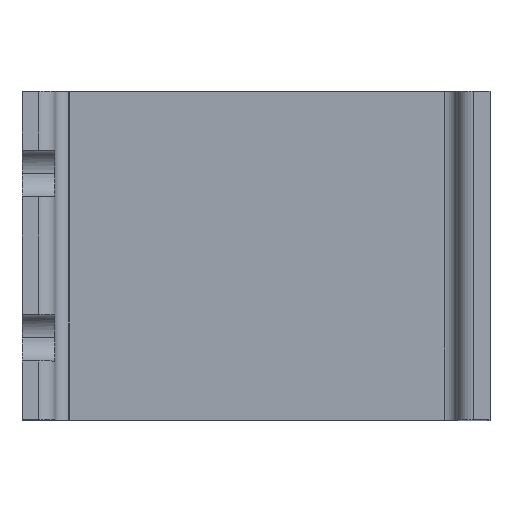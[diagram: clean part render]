
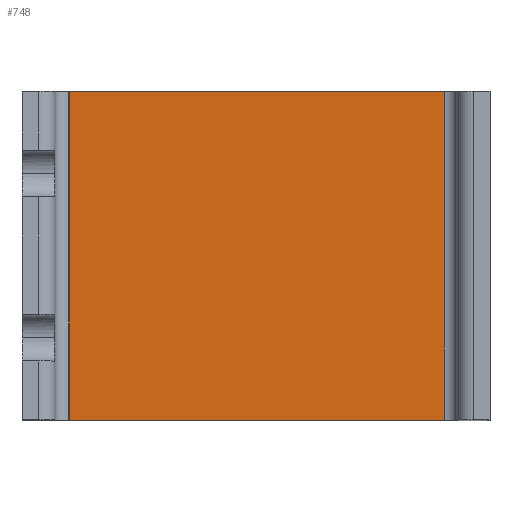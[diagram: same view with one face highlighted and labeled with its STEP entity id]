
A CAD part, top view. The second image highlights one B-rep face of the part: STEP entity #748.
In plain terms, the highlighted planar face has unit normal (-0.052, 0, 0.999).
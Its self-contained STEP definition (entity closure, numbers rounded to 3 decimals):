
#19 = VERTEX_POINT ( 'NONE', #129 ) ;
#49 = CARTESIAN_POINT ( 'NONE',  ( 291.331, 248.2, 32.465 ) ) ;
#72 = EDGE_CURVE ( 'NONE', #907, #2281, #1736, .T. ) ;
#129 = CARTESIAN_POINT ( 'NONE',  ( 222.831, 248.2, 28.875 ) ) ;
#233 = EDGE_CURVE ( 'NONE', #2281, #1954, #254, .T. ) ;
#254 = LINE ( 'NONE', #1974, #939 ) ;
#297 = DIRECTION ( 'NONE',  ( 0., -1., 0. ) ) ;
#490 = ORIENTED_EDGE ( 'NONE', *, *, #233, .T. ) ;
#534 = DIRECTION ( 'NONE',  ( 0.999, 0., 0.052 ) ) ;
#545 = CARTESIAN_POINT ( 'NONE',  ( 291.331, 308.2, 32.465 ) ) ;
#687 = DIRECTION ( 'NONE',  ( 0., 1., 0. ) ) ;
#748 = ADVANCED_FACE ( 'NONE', ( #945 ), #2257, .T. ) ;
#803 = VECTOR ( 'NONE', #687, 1000. ) ;
#848 = ORIENTED_EDGE ( 'NONE', *, *, #2206, .T. ) ;
#849 = ORIENTED_EDGE ( 'NONE', *, *, #72, .T. ) ;
#907 = VERTEX_POINT ( 'NONE', #49 ) ;
#939 = VECTOR ( 'NONE', #1285, 1000. ) ;
#945 = FACE_OUTER_BOUND ( 'NONE', #2002, .T. ) ;
#972 = AXIS2_PLACEMENT_3D ( 'NONE', #1375, #1220, #1571 ) ;
#1031 = ORIENTED_EDGE ( 'NONE', *, *, #1937, .T. ) ;
#1094 = VECTOR ( 'NONE', #534, 1000. ) ;
#1220 = DIRECTION ( 'NONE',  ( -0.052, 0., 0.999 ) ) ;
#1285 = DIRECTION ( 'NONE',  ( -0.999, 0., -0.052 ) ) ;
#1343 = CARTESIAN_POINT ( 'NONE',  ( 222.831, 308.2, 28.875 ) ) ;
#1375 = CARTESIAN_POINT ( 'NONE',  ( 222.831, 308.2, 28.875 ) ) ;
#1571 = DIRECTION ( 'NONE',  ( 0.999, 0., 0.052 ) ) ;
#1720 = CARTESIAN_POINT ( 'NONE',  ( 222.831, 308.2, 28.875 ) ) ;
#1736 = LINE ( 'NONE', #2108, #803 ) ;
#1835 = LINE ( 'NONE', #1960, #1094 ) ;
#1937 = EDGE_CURVE ( 'NONE', #1954, #19, #2001, .T. ) ;
#1954 = VERTEX_POINT ( 'NONE', #1343 ) ;
#1960 = CARTESIAN_POINT ( 'NONE',  ( 222.831, 248.2, 28.875 ) ) ;
#1974 = CARTESIAN_POINT ( 'NONE',  ( 222.831, 308.2, 28.875 ) ) ;
#2001 = LINE ( 'NONE', #1720, #2215 ) ;
#2002 = EDGE_LOOP ( 'NONE', ( #490, #1031, #848, #849 ) ) ;
#2108 = CARTESIAN_POINT ( 'NONE',  ( 291.331, 308.2, 32.465 ) ) ;
#2206 = EDGE_CURVE ( 'NONE', #19, #907, #1835, .T. ) ;
#2215 = VECTOR ( 'NONE', #297, 1000. ) ;
#2257 = PLANE ( 'NONE',  #972 ) ;
#2281 = VERTEX_POINT ( 'NONE', #545 ) ;
